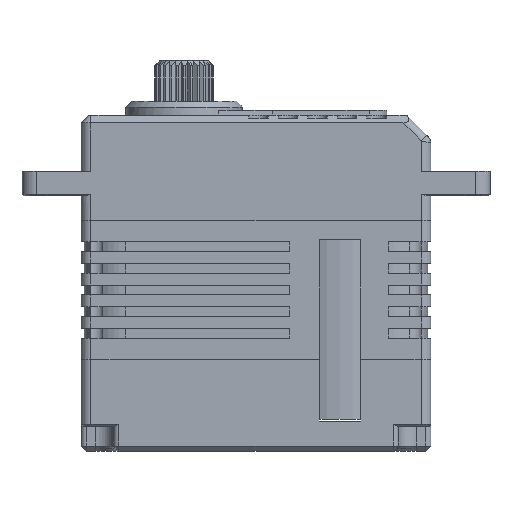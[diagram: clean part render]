
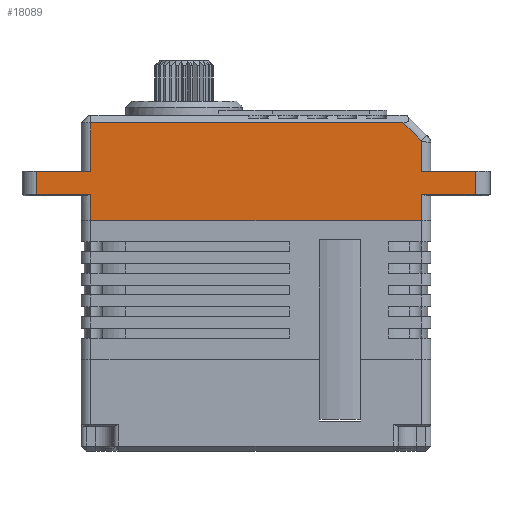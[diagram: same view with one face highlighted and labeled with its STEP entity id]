
A CAD part, front view. The second image highlights one B-rep face of the part: STEP entity #18089.
In plain terms, the highlighted planar face has unit normal (0, -1, 0).
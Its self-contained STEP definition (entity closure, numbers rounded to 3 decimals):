
#314 = ORIENTED_EDGE ( 'NONE', *, *, #7443, .T. ) ;
#337 = LINE ( 'NONE', #12048, #11116 ) ;
#792 = EDGE_CURVE ( 'NONE', #18561, #13954, #3873, .T. ) ;
#826 = CARTESIAN_POINT ( 'NONE',  ( -58.153, -16.86, 5.25 ) ) ;
#879 = CARTESIAN_POINT ( 'NONE',  ( -18.153, -16.86, 5.25 ) ) ;
#1011 = DIRECTION ( 'NONE',  ( 0., 0., 1. ) ) ;
#1235 = DIRECTION ( 'NONE',  ( -0.707, 0., 0.707 ) ) ;
#1466 = VERTEX_POINT ( 'NONE', #2924 ) ;
#1539 = DIRECTION ( 'NONE',  ( 1., 0., 0. ) ) ;
#1576 = VERTEX_POINT ( 'NONE', #18150 ) ;
#1916 = DIRECTION ( 'NONE',  ( 0., 1., 0. ) ) ;
#2770 = VECTOR ( 'NONE', #11019, 1000. ) ;
#2924 = CARTESIAN_POINT ( 'NONE',  ( -57.153, -16.86, 5.25 ) ) ;
#3105 = LINE ( 'NONE', #17731, #7808 ) ;
#3347 = CARTESIAN_POINT ( 'NONE',  ( -62.653, -16.86, 7.9 ) ) ;
#3873 = LINE ( 'NONE', #8244, #19307 ) ;
#4429 = CARTESIAN_POINT ( 'NONE',  ( -57.153, -16.86, 10.25 ) ) ;
#4536 = DIRECTION ( 'NONE',  ( 1., 0., 0. ) ) ;
#4809 = LINE ( 'NONE', #7184, #2770 ) ;
#4858 = DIRECTION ( 'NONE',  ( 1., 0., 0. ) ) ;
#4911 = AXIS2_PLACEMENT_3D ( 'NONE', #18769, #1916, #18534 ) ;
#4971 = CARTESIAN_POINT ( 'NONE',  ( -62.653, -16.86, 10.25 ) ) ;
#5113 = CARTESIAN_POINT ( 'NONE',  ( -57.153, -16.86, 7.9 ) ) ;
#5571 = CARTESIAN_POINT ( 'NONE',  ( -23.653, -16.86, 7.9 ) ) ;
#5587 = VECTOR ( 'NONE', #6462, 1000. ) ;
#5964 = ORIENTED_EDGE ( 'NONE', *, *, #13481, .T. ) ;
#6058 = DIRECTION ( 'NONE',  ( 0., 0., 1. ) ) ;
#6255 = VECTOR ( 'NONE', #4536, 1000. ) ;
#6462 = DIRECTION ( 'NONE',  ( -1., 0., 0. ) ) ;
#6519 = LINE ( 'NONE', #10673, #15530 ) ;
#6722 = EDGE_LOOP ( 'NONE', ( #314, #5964, #20773, #9787, #23757, #7492, #22846, #12220, #12256, #14457, #7845, #9265, #20183 ) ) ;
#7184 = CARTESIAN_POINT ( 'NONE',  ( -57.153, -16.86, 5.25 ) ) ;
#7443 = EDGE_CURVE ( 'NONE', #13954, #7489, #21049, .T. ) ;
#7468 = PLANE ( 'NONE',  #4911 ) ;
#7489 = VERTEX_POINT ( 'NONE', #21130 ) ;
#7492 = ORIENTED_EDGE ( 'NONE', *, *, #22940, .T. ) ;
#7808 = VECTOR ( 'NONE', #4858, 1000. ) ;
#7845 = ORIENTED_EDGE ( 'NONE', *, *, #11338, .T. ) ;
#8003 = VERTEX_POINT ( 'NONE', #22903 ) ;
#8244 = CARTESIAN_POINT ( 'NONE',  ( -16.653, -16.86, 10.25 ) ) ;
#9265 = ORIENTED_EDGE ( 'NONE', *, *, #19617, .T. ) ;
#9365 = VERTEX_POINT ( 'NONE', #20244 ) ;
#9787 = ORIENTED_EDGE ( 'NONE', *, *, #15645, .F. ) ;
#9984 = CARTESIAN_POINT ( 'NONE',  ( -57.153, -16.86, 15.15 ) ) ;
#10673 = CARTESIAN_POINT ( 'NONE',  ( -24.919, -16.86, 14.584 ) ) ;
#11019 = DIRECTION ( 'NONE',  ( 0., 0., -1. ) ) ;
#11116 = VECTOR ( 'NONE', #19541, 1000. ) ;
#11211 = DIRECTION ( 'NONE',  ( 0., 0., -1. ) ) ;
#11338 = EDGE_CURVE ( 'NONE', #23463, #11588, #337, .T. ) ;
#11588 = VERTEX_POINT ( 'NONE', #12680 ) ;
#11937 = DIRECTION ( 'NONE',  ( 0., 0., 1. ) ) ;
#11946 = VERTEX_POINT ( 'NONE', #3347 ) ;
#12048 = CARTESIAN_POINT ( 'NONE',  ( -58.153, -16.86, 7.9 ) ) ;
#12072 = DIRECTION ( 'NONE',  ( -1., 0., 0. ) ) ;
#12213 = CARTESIAN_POINT ( 'NONE',  ( -58.153, -16.86, 15.15 ) ) ;
#12220 = ORIENTED_EDGE ( 'NONE', *, *, #14821, .T. ) ;
#12256 = ORIENTED_EDGE ( 'NONE', *, *, #23826, .F. ) ;
#12352 = VERTEX_POINT ( 'NONE', #4971 ) ;
#12669 = CARTESIAN_POINT ( 'NONE',  ( -58.153, -16.86, 10.25 ) ) ;
#12680 = CARTESIAN_POINT ( 'NONE',  ( -18.153, -16.86, 7.9 ) ) ;
#12829 = CARTESIAN_POINT ( 'NONE',  ( -62.653, -16.86, 5.25 ) ) ;
#13481 = EDGE_CURVE ( 'NONE', #7489, #9365, #6519, .T. ) ;
#13769 = EDGE_CURVE ( 'NONE', #12352, #1576, #21048, .T. ) ;
#13954 = VERTEX_POINT ( 'NONE', #20816 ) ;
#14078 = EDGE_CURVE ( 'NONE', #8003, #23463, #19962, .T. ) ;
#14457 = ORIENTED_EDGE ( 'NONE', *, *, #14078, .T. ) ;
#14821 = EDGE_CURVE ( 'NONE', #16267, #1466, #4809, .T. ) ;
#15007 = LINE ( 'NONE', #12213, #6255 ) ;
#15211 = EDGE_CURVE ( 'NONE', #17739, #9365, #15007, .T. ) ;
#15530 = VECTOR ( 'NONE', #1235, 1000. ) ;
#15645 = EDGE_CURVE ( 'NONE', #1576, #17739, #18840, .T. ) ;
#16017 = CARTESIAN_POINT ( 'NONE',  ( -23.653, -16.86, 5.25 ) ) ;
#16099 = VECTOR ( 'NONE', #1539, 1000. ) ;
#16101 = VECTOR ( 'NONE', #6058, 1000. ) ;
#16267 = VERTEX_POINT ( 'NONE', #5113 ) ;
#16365 = CARTESIAN_POINT ( 'NONE',  ( -18.153, -16.86, 10.25 ) ) ;
#17731 = CARTESIAN_POINT ( 'NONE',  ( -58.153, -16.86, 7.9 ) ) ;
#17739 = VERTEX_POINT ( 'NONE', #9984 ) ;
#18089 = ADVANCED_FACE ( 'NONE', ( #23699 ), #7468, .F. ) ;
#18150 = CARTESIAN_POINT ( 'NONE',  ( -57.153, -16.86, 10.25 ) ) ;
#18495 = LINE ( 'NONE', #12829, #20230 ) ;
#18534 = DIRECTION ( 'NONE',  ( 0., 0., 1. ) ) ;
#18561 = VERTEX_POINT ( 'NONE', #16365 ) ;
#18769 = CARTESIAN_POINT ( 'NONE',  ( -58.153, -16.86, 5.25 ) ) ;
#18819 = LINE ( 'NONE', #879, #22593 ) ;
#18840 = LINE ( 'NONE', #4429, #20002 ) ;
#19075 = VECTOR ( 'NONE', #1011, 1000. ) ;
#19307 = VECTOR ( 'NONE', #12072, 1000. ) ;
#19541 = DIRECTION ( 'NONE',  ( 1., 0., 0. ) ) ;
#19617 = EDGE_CURVE ( 'NONE', #11588, #18561, #18819, .T. ) ;
#19962 = LINE ( 'NONE', #16017, #19075 ) ;
#20002 = VECTOR ( 'NONE', #11937, 1000. ) ;
#20183 = ORIENTED_EDGE ( 'NONE', *, *, #792, .T. ) ;
#20230 = VECTOR ( 'NONE', #11211, 1000. ) ;
#20244 = CARTESIAN_POINT ( 'NONE',  ( -25.485, -16.86, 15.15 ) ) ;
#20773 = ORIENTED_EDGE ( 'NONE', *, *, #15211, .F. ) ;
#20816 = CARTESIAN_POINT ( 'NONE',  ( -23.653, -16.86, 10.25 ) ) ;
#20839 = EDGE_CURVE ( 'NONE', #11946, #16267, #3105, .T. ) ;
#21040 = LINE ( 'NONE', #826, #5587 ) ;
#21048 = LINE ( 'NONE', #12669, #16099 ) ;
#21049 = LINE ( 'NONE', #22676, #16101 ) ;
#21130 = CARTESIAN_POINT ( 'NONE',  ( -23.653, -16.86, 13.319 ) ) ;
#21412 = DIRECTION ( 'NONE',  ( 0., 0., 1. ) ) ;
#22593 = VECTOR ( 'NONE', #21412, 1000. ) ;
#22676 = CARTESIAN_POINT ( 'NONE',  ( -23.653, -16.86, 5.25 ) ) ;
#22846 = ORIENTED_EDGE ( 'NONE', *, *, #20839, .T. ) ;
#22903 = CARTESIAN_POINT ( 'NONE',  ( -23.653, -16.86, 5.25 ) ) ;
#22940 = EDGE_CURVE ( 'NONE', #12352, #11946, #18495, .T. ) ;
#23463 = VERTEX_POINT ( 'NONE', #5571 ) ;
#23699 = FACE_OUTER_BOUND ( 'NONE', #6722, .T. ) ;
#23757 = ORIENTED_EDGE ( 'NONE', *, *, #13769, .F. ) ;
#23826 = EDGE_CURVE ( 'NONE', #8003, #1466, #21040, .T. ) ;
